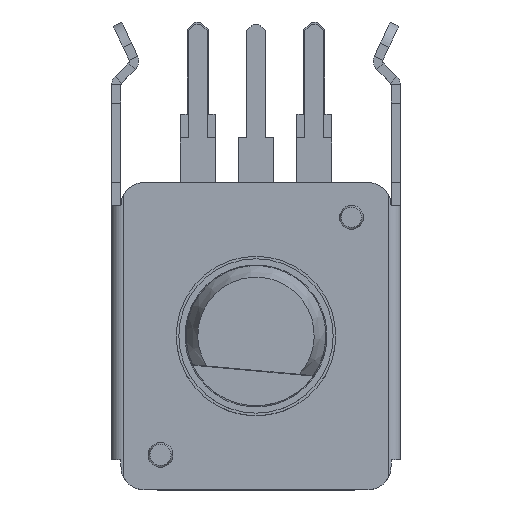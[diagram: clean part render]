
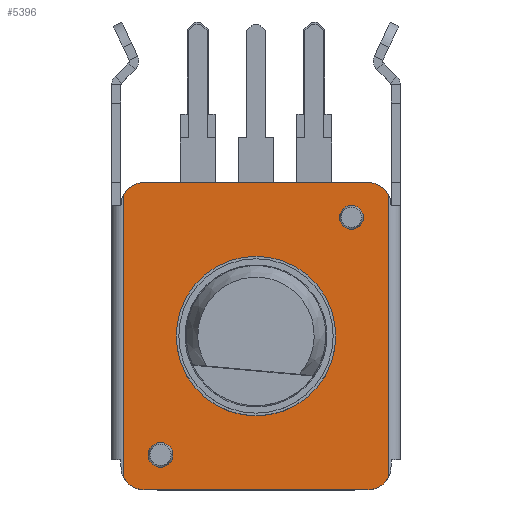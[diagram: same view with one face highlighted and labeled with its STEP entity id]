
A CAD part, top view. The second image highlights one B-rep face of the part: STEP entity #5396.
In plain terms, the highlighted planar face has unit normal (0, 0, 1).
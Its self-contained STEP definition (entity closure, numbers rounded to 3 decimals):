
#412=LINE($,#8473,#1094);
#469=LINE($,#8608,#1151);
#495=LINE($,#8659,#1177);
#518=LINE($,#8711,#1200);
#1094=VECTOR($,#6860,12.072);
#1151=VECTOR($,#6949,9.6);
#1177=VECTOR($,#6997,9.6);
#1200=VECTOR($,#7038,12.072);
#1537=PLANE($,#5830);
#1826=FACE_OUTER_BOUND($,#2125,.T.);
#2125=EDGE_LOOP($,(#4688,#4689,#4690,#4691,#4692,#4693,#4694,#4695));
#2321=CIRCLE($,#5808,1.);
#2322=CIRCLE($,#5812,1.);
#2325=CIRCLE($,#5820,1.);
#2326=CIRCLE($,#5823,1.);
#2692=VERTEX_POINT($,#8465);
#2693=VERTEX_POINT($,#8472);
#2739=VERTEX_POINT($,#8590);
#2741=VERTEX_POINT($,#8598);
#2743=VERTEX_POINT($,#8607);
#2756=VERTEX_POINT($,#8653);
#2757=VERTEX_POINT($,#8657);
#2759=VERTEX_POINT($,#8662);
#3373=EDGE_CURVE($,#2692,#2693,#412,.T.);
#3434=EDGE_CURVE($,#2739,#2741,#2321,.T.);
#3439=EDGE_CURVE($,#2741,#2743,#469,.T.);
#3442=EDGE_CURVE($,#2743,#2692,#2322,.T.);
#3466=EDGE_CURVE($,#2693,#2756,#2325,.T.);
#3469=EDGE_CURVE($,#2756,#2757,#495,.T.);
#3472=EDGE_CURVE($,#2757,#2759,#2326,.T.);
#3497=EDGE_CURVE($,#2759,#2739,#518,.T.);
#4688=ORIENTED_EDGE($,*,*,#3373,.F.);
#4689=ORIENTED_EDGE($,*,*,#3442,.F.);
#4690=ORIENTED_EDGE($,*,*,#3439,.F.);
#4691=ORIENTED_EDGE($,*,*,#3434,.F.);
#4692=ORIENTED_EDGE($,*,*,#3497,.F.);
#4693=ORIENTED_EDGE($,*,*,#3472,.F.);
#4694=ORIENTED_EDGE($,*,*,#3469,.F.);
#4695=ORIENTED_EDGE($,*,*,#3466,.F.);
#5396=ADVANCED_FACE($,(#1826),#1537,.T.);
#5808=AXIS2_PLACEMENT_3D($,#8599,#6939,#6940);
#5812=AXIS2_PLACEMENT_3D($,#8612,#6954,#6955);
#5820=AXIS2_PLACEMENT_3D($,#8654,#6991,#6992);
#5823=AXIS2_PLACEMENT_3D($,#8670,#7001,#7002);
#5830=AXIS2_PLACEMENT_3D($,#8710,#7036,#7037);
#6860=DIRECTION($,(0.,1.,0.));
#6939=DIRECTION('center_axis',(0.,0.,
-1.));
#6940=DIRECTION('ref_axis',(0.707,-0.707,0.));
#6949=DIRECTION($,(-1.,0.,0.));
#6954=DIRECTION('center_axis',(0.,0.,
-1.));
#6955=DIRECTION('ref_axis',(-0.707,-0.707,0.));
#6991=DIRECTION('center_axis',(0.,0.,
-1.));
#6992=DIRECTION('ref_axis',(-0.707,0.707,0.));
#6997=DIRECTION($,(1.,0.,0.));
#7001=DIRECTION('center_axis',(0.,0.,
-1.));
#7002=DIRECTION('ref_axis',(0.707,0.707,0.));
#7036=DIRECTION('center_axis',(0.,0.,
1.));
#7037=DIRECTION('ref_axis',(1.,0.,0.));
#7038=DIRECTION($,(0.,-1.,0.));
#8465=CARTESIAN_POINT('',(-5.7,-6.036,6.1));
#8472=CARTESIAN_POINT('',(-5.7,6.036,6.1));
#8473=CARTESIAN_POINT($,(-5.7,0.,6.1));
#8590=CARTESIAN_POINT('',(5.7,-6.036,6.1));
#8598=CARTESIAN_POINT('',(4.8,-6.6,6.1));
#8599=CARTESIAN_POINT('Origin',(4.8,-5.6,6.1));
#8607=CARTESIAN_POINT('',(-4.8,-6.6,6.1));
#8608=CARTESIAN_POINT($,(5.8,-6.6,6.1));
#8612=CARTESIAN_POINT('Origin',(-4.8,-5.6,6.1));
#8653=CARTESIAN_POINT('',(-4.8,6.6,6.1));
#8654=CARTESIAN_POINT('Origin',(-4.8,5.6,6.1));
#8657=CARTESIAN_POINT('',(4.8,6.6,6.1));
#8659=CARTESIAN_POINT($,(-5.8,6.6,6.1));
#8662=CARTESIAN_POINT('',(5.7,6.036,6.1));
#8670=CARTESIAN_POINT('Origin',(4.8,5.6,6.1));
#8710=CARTESIAN_POINT('Origin',(0.,0.,
6.1));
#8711=CARTESIAN_POINT($,(5.7,0.,6.1));
